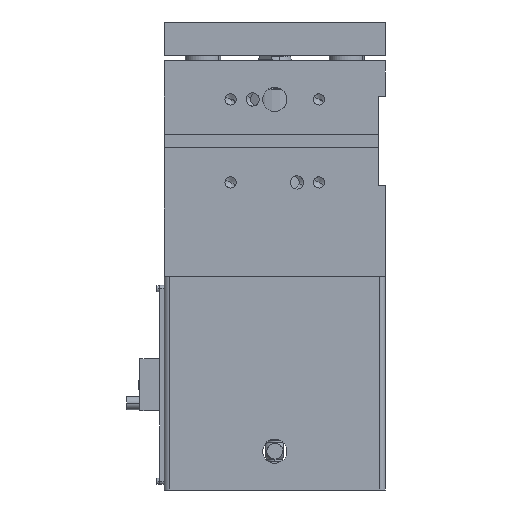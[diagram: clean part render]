
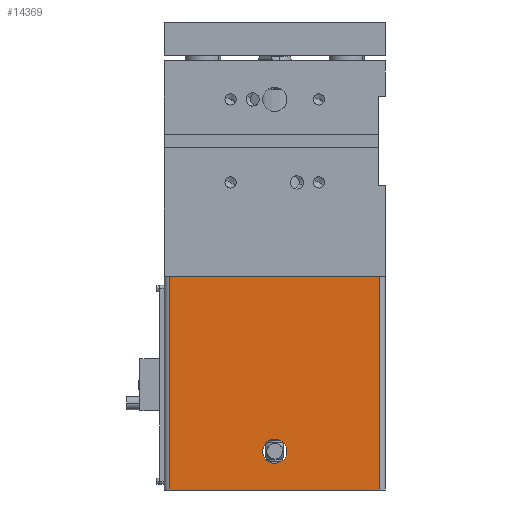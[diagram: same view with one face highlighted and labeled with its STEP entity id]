
A CAD part, front view. The second image highlights one B-rep face of the part: STEP entity #14369.
In plain terms, the highlighted planar face has unit normal (0, -1, 0).
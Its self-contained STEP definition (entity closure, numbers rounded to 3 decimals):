
#14331=AXIS2_PLACEMENT_3D('Plane Axis2P3D',#14328,#14329,#14330) ;
#14353=AXIS2_PLACEMENT_3D('Circle Axis2P3D',#14351,#14352,$) ;
#14362=AXIS2_PLACEMENT_3D('Circle Axis2P3D',#14360,#14361,$) ;
#14031=CARTESIAN_POINT('Vertex',(95.,-50.,-388.)) ;
#14034=CARTESIAN_POINT('Line Origine',(0.,-50.,-388.)) ;
#14038=CARTESIAN_POINT('Vertex',(-95.,-50.,-388.)) ;
#14302=CARTESIAN_POINT('Line Origine',(95.,-50.,-386.5)) ;
#14306=CARTESIAN_POINT('Vertex',(95.,-50.,-195.01)) ;
#14328=CARTESIAN_POINT('Axis2P3D Location',(-100.,-50.,-195.)) ;
#14333=CARTESIAN_POINT('Line Origine',(0.,-50.,-195.01)) ;
#14337=CARTESIAN_POINT('Vertex',(-95.,-50.,-195.01)) ;
#14340=CARTESIAN_POINT('Line Origine',(-95.,-50.,-291.505)) ;
#14351=CARTESIAN_POINT('Axis2P3D Location',(0.,-50.,-353.)) ;
#14355=CARTESIAN_POINT('Vertex',(11.,-50.,-353.)) ;
#14357=CARTESIAN_POINT('Vertex',(-11.,-50.,-353.)) ;
#14360=CARTESIAN_POINT('Axis2P3D Location',(0.,-50.,-353.)) ;
#14035=DIRECTION('Vector Direction',(-1.,0.,0.)) ;
#14303=DIRECTION('Vector Direction',(0.,0.,-1.)) ;
#14329=DIRECTION('Axis2P3D Direction',(-0.,1.,0.)) ;
#14330=DIRECTION('Axis2P3D XDirection',(1.,0.,0.)) ;
#14334=DIRECTION('Vector Direction',(1.,0.,0.)) ;
#14341=DIRECTION('Vector Direction',(0.,0.,-1.)) ;
#14352=DIRECTION('Axis2P3D Direction',(-0.,1.,0.)) ;
#14361=DIRECTION('Axis2P3D Direction',(-0.,1.,0.)) ;
#14036=VECTOR('Line Direction',#14035,1.) ;
#14304=VECTOR('Line Direction',#14303,1.) ;
#14335=VECTOR('Line Direction',#14334,1.) ;
#14342=VECTOR('Line Direction',#14341,1.) ;
#14346=ORIENTED_EDGE('',*,*,#14339,.T.) ;
#14347=ORIENTED_EDGE('',*,*,#14344,.T.) ;
#14348=ORIENTED_EDGE('',*,*,#14040,.F.) ;
#14349=ORIENTED_EDGE('',*,*,#14308,.F.) ;
#14366=ORIENTED_EDGE('',*,*,#14359,.T.) ;
#14367=ORIENTED_EDGE('',*,*,#14364,.T.) ;
#14368=FACE_BOUND('',#14365,.T.) ;
#14369=ADVANCED_FACE('PartBody',(#14350,#14368),#14332,.F.) ;
#14354=CIRCLE('generated circle',#14353,11.) ;
#14363=CIRCLE('generated circle',#14362,11.) ;
#14040=EDGE_CURVE('',#14032,#14039,#14037,.T.) ;
#14308=EDGE_CURVE('',#14307,#14032,#14305,.T.) ;
#14339=EDGE_CURVE('',#14307,#14338,#14336,.F.) ;
#14344=EDGE_CURVE('',#14338,#14039,#14343,.T.) ;
#14359=EDGE_CURVE('',#14356,#14358,#14354,.T.) ;
#14364=EDGE_CURVE('',#14358,#14356,#14363,.T.) ;
#14345=EDGE_LOOP('',(#14346,#14347,#14348,#14349)) ;
#14365=EDGE_LOOP('',(#14366,#14367)) ;
#14350=FACE_OUTER_BOUND('',#14345,.T.) ;
#14037=LINE('Line',#14034,#14036) ;
#14305=LINE('Line',#14302,#14304) ;
#14336=LINE('Line',#14333,#14335) ;
#14343=LINE('Line',#14340,#14342) ;
#14332=PLANE('Plane',#14331) ;
#14032=VERTEX_POINT('',#14031) ;
#14039=VERTEX_POINT('',#14038) ;
#14307=VERTEX_POINT('',#14306) ;
#14338=VERTEX_POINT('',#14337) ;
#14356=VERTEX_POINT('',#14355) ;
#14358=VERTEX_POINT('',#14357) ;
